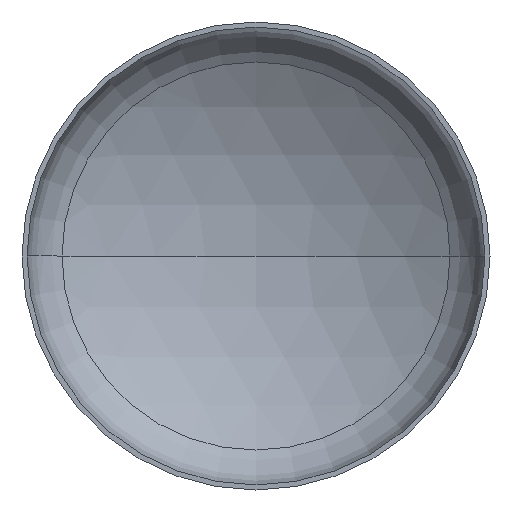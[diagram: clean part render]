
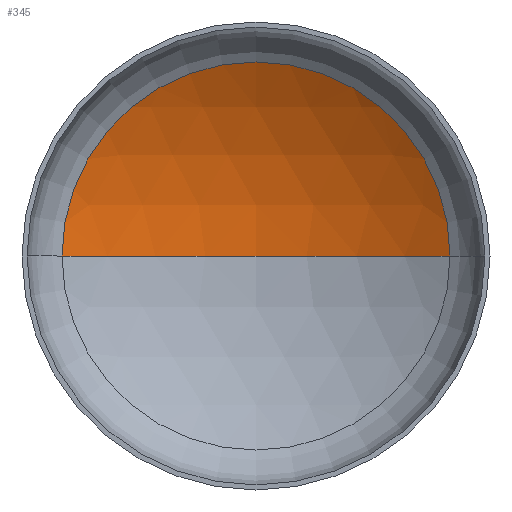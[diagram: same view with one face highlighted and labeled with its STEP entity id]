
A CAD part, front view. The second image highlights one B-rep face of the part: STEP entity #345.
In plain terms, the highlighted spherical face has radius 880 mm.
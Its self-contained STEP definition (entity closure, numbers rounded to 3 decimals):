
#13 = ORIENTED_EDGE ( 'NONE', *, *, #325, .T. ) ;
#14 = EDGE_LOOP ( 'NONE', ( #29, #13, #19 ) ) ;
#15 = VERTEX_POINT ( 'NONE', #299 ) ;
#19 = ORIENTED_EDGE ( 'NONE', *, *, #320, .T. ) ;
#29 = ORIENTED_EDGE ( 'NONE', *, *, #341, .F. ) ;
#34 = AXIS2_PLACEMENT_3D ( 'NONE', #173, #117, #394 ) ;
#45 = AXIS2_PLACEMENT_3D ( 'NONE', #328, #178, #282 ) ;
#56 = AXIS2_PLACEMENT_3D ( 'NONE', #170, #171, #287 ) ;
#60 = AXIS2_PLACEMENT_3D ( 'NONE', #181, #143, #146 ) ;
#68 = VERTEX_POINT ( 'NONE', #296 ) ;
#107 = VERTEX_POINT ( 'NONE', #247 ) ;
#117 = DIRECTION ( 'NONE',  ( 0., 0., -1. ) ) ;
#143 = DIRECTION ( 'NONE',  ( 0., -1., 0. ) ) ;
#146 = DIRECTION ( 'NONE',  ( 1., 0., 0. ) ) ;
#170 = CARTESIAN_POINT ( 'NONE',  ( 0., -567.187, 0. ) ) ;
#171 = DIRECTION ( 'NONE',  ( 0., 0., -1. ) ) ;
#173 = CARTESIAN_POINT ( 'NONE',  ( 0., -567.187, 0. ) ) ;
#178 = DIRECTION ( 'NONE',  ( 0., 0., 1. ) ) ;
#181 = CARTESIAN_POINT ( 'NONE',  ( 0., 185.383, 0. ) ) ;
#193 = CIRCLE ( 'NONE', #56, 880. ) ;
#247 = CARTESIAN_POINT ( 'NONE',  ( 0., 312.813, 0. ) ) ;
#255 = SPHERICAL_SURFACE ( 'NONE', #34, 880. ) ;
#282 = DIRECTION ( 'NONE',  ( 1., 0., 0. ) ) ;
#287 = DIRECTION ( 'NONE',  ( -1., 0., 0. ) ) ;
#296 = CARTESIAN_POINT ( 'NONE',  ( -456.113, 185.383, 0. ) ) ;
#299 = CARTESIAN_POINT ( 'NONE',  ( 456.113, 185.383, 0. ) ) ;
#320 = EDGE_CURVE ( 'NONE', #15, #68, #392, .T. ) ;
#325 = EDGE_CURVE ( 'NONE', #107, #15, #193, .T. ) ;
#328 = CARTESIAN_POINT ( 'NONE',  ( 0., -567.187, 0. ) ) ;
#329 = FACE_OUTER_BOUND ( 'NONE', #14, .T. ) ;
#341 = EDGE_CURVE ( 'NONE', #107, #68, #383, .T. ) ;
#345 = ADVANCED_FACE ( 'NONE', ( #329 ), #255, .F. ) ;
#383 = CIRCLE ( 'NONE', #45, 880. ) ;
#392 = CIRCLE ( 'NONE', #60, 456.113 ) ;
#394 = DIRECTION ( 'NONE',  ( -1., 0., 0. ) ) ;
